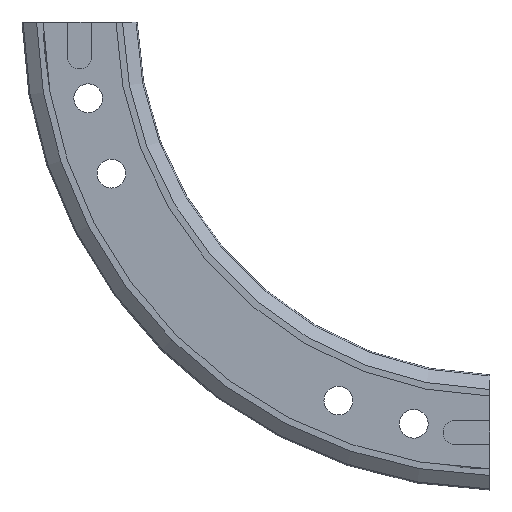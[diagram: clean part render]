
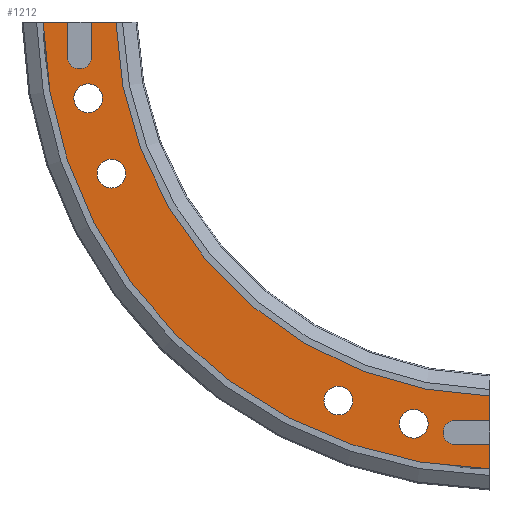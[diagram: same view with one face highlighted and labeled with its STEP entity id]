
A CAD part, front view. The second image highlights one B-rep face of the part: STEP entity #1212.
In plain terms, the highlighted planar face has unit normal (0, -1, 0).
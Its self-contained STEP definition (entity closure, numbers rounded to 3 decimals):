
#27=PLANE('',#1301);
#78=LINE('',#1788,#190);
#82=LINE('',#1796,#194);
#91=LINE('',#1857,#203);
#92=LINE('',#1858,#204);
#93=LINE('',#1860,#205);
#94=LINE('',#1864,#206);
#95=LINE('',#1866,#207);
#96=LINE('',#1869,#208);
#190=VECTOR('',#1423,1000.);
#194=VECTOR('',#1427,1000.);
#203=VECTOR('',#1448,1000.);
#204=VECTOR('',#1449,1000.);
#205=VECTOR('',#1450,1000.);
#206=VECTOR('',#1453,1000.);
#207=VECTOR('',#1454,1000.);
#208=VECTOR('',#1457,1000.);
#300=CIRCLE('',#1298,77.7);
#302=CIRCLE('',#1302,2.45);
#303=CIRCLE('',#1303,2.45);
#304=CIRCLE('',#1304,2.45);
#305=CIRCLE('',#1305,2.45);
#306=CIRCLE('',#1306,2.);
#307=CIRCLE('',#1307,2.);
#308=CIRCLE('',#1308,65.3);
#366=ORIENTED_EDGE('',*,*,#701,.F.);
#367=ORIENTED_EDGE('',*,*,#702,.F.);
#368=ORIENTED_EDGE('',*,*,#703,.F.);
#369=ORIENTED_EDGE('',*,*,#704,.F.);
#370=ORIENTED_EDGE('',*,*,#705,.T.);
#371=ORIENTED_EDGE('',*,*,#706,.T.);
#372=ORIENTED_EDGE('',*,*,#682,.T.);
#373=ORIENTED_EDGE('',*,*,#677,.T.);
#374=ORIENTED_EDGE('',*,*,#707,.T.);
#375=ORIENTED_EDGE('',*,*,#708,.T.);
#376=ORIENTED_EDGE('',*,*,#709,.T.);
#377=ORIENTED_EDGE('',*,*,#710,.T.);
#378=ORIENTED_EDGE('',*,*,#711,.T.);
#379=ORIENTED_EDGE('',*,*,#712,.F.);
#380=ORIENTED_EDGE('',*,*,#686,.T.);
#381=ORIENTED_EDGE('',*,*,#713,.T.);
#677=EDGE_CURVE('',#845,#846,#300,.T.);
#682=EDGE_CURVE('',#850,#845,#78,.T.);
#686=EDGE_CURVE('',#854,#853,#82,.T.);
#701=EDGE_CURVE('',#868,#868,#302,.T.);
#702=EDGE_CURVE('',#869,#869,#303,.T.);
#703=EDGE_CURVE('',#870,#870,#304,.T.);
#704=EDGE_CURVE('',#871,#871,#305,.T.);
#705=EDGE_CURVE('',#872,#873,#306,.T.);
#706=EDGE_CURVE('',#873,#850,#91,.T.);
#707=EDGE_CURVE('',#846,#874,#92,.T.);
#708=EDGE_CURVE('',#874,#875,#93,.T.);
#709=EDGE_CURVE('',#875,#876,#307,.T.);
#710=EDGE_CURVE('',#876,#877,#94,.T.);
#711=EDGE_CURVE('',#877,#878,#95,.T.);
#712=EDGE_CURVE('',#854,#878,#308,.T.);
#713=EDGE_CURVE('',#853,#872,#96,.T.);
#845=VERTEX_POINT('',#1768);
#846=VERTEX_POINT('',#1769);
#850=VERTEX_POINT('',#1789);
#853=VERTEX_POINT('',#1795);
#854=VERTEX_POINT('',#1797);
#868=VERTEX_POINT('',#1847);
#869=VERTEX_POINT('',#1849);
#870=VERTEX_POINT('',#1851);
#871=VERTEX_POINT('',#1853);
#872=VERTEX_POINT('',#1855);
#873=VERTEX_POINT('',#1856);
#874=VERTEX_POINT('',#1859);
#875=VERTEX_POINT('',#1861);
#876=VERTEX_POINT('',#1863);
#877=VERTEX_POINT('',#1865);
#878=VERTEX_POINT('',#1867);
#984=EDGE_LOOP('',(#366));
#985=EDGE_LOOP('',(#367));
#986=EDGE_LOOP('',(#368));
#987=EDGE_LOOP('',(#369));
#988=EDGE_LOOP('',(#370,#371,#372,#373,#374,#375,#376,#377,#378,#379,#380,
#381));
#1090=FACE_BOUND('',#984,.T.);
#1091=FACE_BOUND('',#985,.T.);
#1092=FACE_BOUND('',#986,.T.);
#1093=FACE_BOUND('',#987,.T.);
#1094=FACE_BOUND('',#988,.T.);
#1212=ADVANCED_FACE('',(#1090,#1091,#1092,#1093,#1094),#27,.T.);
#1298=AXIS2_PLACEMENT_3D('',#1767,#1415,#1416);
#1301=AXIS2_PLACEMENT_3D('',#1845,#1436,#1437);
#1302=AXIS2_PLACEMENT_3D('',#1846,#1438,#1439);
#1303=AXIS2_PLACEMENT_3D('',#1848,#1440,#1441);
#1304=AXIS2_PLACEMENT_3D('',#1850,#1442,#1443);
#1305=AXIS2_PLACEMENT_3D('',#1852,#1444,#1445);
#1306=AXIS2_PLACEMENT_3D('',#1854,#1446,#1447);
#1307=AXIS2_PLACEMENT_3D('',#1862,#1451,#1452);
#1308=AXIS2_PLACEMENT_3D('',#1868,#1455,#1456);
#1415=DIRECTION('',(0.,-1.,0.));
#1416=DIRECTION('',(0.,0.,-1.));
#1423=DIRECTION('',(-1.,0.,0.));
#1427=DIRECTION('',(-1.,0.,0.));
#1436=DIRECTION('',(0.,-1.,0.));
#1437=DIRECTION('',(0.,0.,-1.));
#1438=DIRECTION('',(0.,-1.,0.));
#1439=DIRECTION('',(0.,0.,-1.));
#1440=DIRECTION('',(0.,-1.,0.));
#1441=DIRECTION('',(0.,0.,-1.));
#1442=DIRECTION('',(0.,-1.,0.));
#1443=DIRECTION('',(0.,0.,-1.));
#1444=DIRECTION('',(0.,-1.,0.));
#1445=DIRECTION('',(0.,0.,-1.));
#1446=DIRECTION('',(0.,1.,0.));
#1447=DIRECTION('',(1.,0.,0.));
#1448=DIRECTION('',(0.,0.,1.));
#1449=DIRECTION('',(0.,0.,1.));
#1450=DIRECTION('',(-1.,0.,0.));
#1451=DIRECTION('',(0.,1.,0.));
#1452=DIRECTION('',(1.,0.,0.));
#1453=DIRECTION('',(1.,0.,0.));
#1454=DIRECTION('',(0.,0.,1.));
#1455=DIRECTION('',(0.,-1.,0.));
#1456=DIRECTION('',(0.,0.,-1.));
#1457=DIRECTION('',(0.,0.,-1.));
#1767=CARTESIAN_POINT('',(0.,0.,0.));
#1768=CARTESIAN_POINT('',(-77.686,0.,-1.5));
#1769=CARTESIAN_POINT('',(-1.5,0.,-77.686));
#1788=CARTESIAN_POINT('',(-1.5,0.,-1.5));
#1789=CARTESIAN_POINT('',(-73.5,0.,-1.5));
#1795=CARTESIAN_POINT('',(-69.5,0.,-1.5));
#1796=CARTESIAN_POINT('',(-1.5,0.,-1.5));
#1797=CARTESIAN_POINT('',(-65.283,0.,-1.5));
#1845=CARTESIAN_POINT('',(-65.3,0.,0.));
#1846=CARTESIAN_POINT('',(-70.014,0.,-14.499));
#1847=CARTESIAN_POINT('',(-70.014,0.,-16.949));
#1848=CARTESIAN_POINT('',(-14.499,0.,-70.014));
#1849=CARTESIAN_POINT('',(-14.499,0.,-72.464));
#1850=CARTESIAN_POINT('',(-66.057,0.,-27.362));
#1851=CARTESIAN_POINT('',(-66.057,0.,-29.812));
#1852=CARTESIAN_POINT('',(-27.362,0.,-66.057));
#1853=CARTESIAN_POINT('',(-27.362,0.,-68.507));
#1854=CARTESIAN_POINT('',(-71.5,0.,-7.5));
#1855=CARTESIAN_POINT('',(-69.5,0.,-7.5));
#1856=CARTESIAN_POINT('',(-73.5,0.,-7.5));
#1857=CARTESIAN_POINT('',(-73.5,0.,-7.5));
#1858=CARTESIAN_POINT('',(-1.5,0.,-81.685));
#1859=CARTESIAN_POINT('',(-1.5,0.,-73.5));
#1860=CARTESIAN_POINT('',(0.,0.,-73.5));
#1861=CARTESIAN_POINT('',(-7.5,0.,-73.5));
#1862=CARTESIAN_POINT('',(-7.5,0.,-71.5));
#1863=CARTESIAN_POINT('',(-7.5,0.,-69.5));
#1864=CARTESIAN_POINT('',(-7.5,0.,-69.5));
#1865=CARTESIAN_POINT('',(-1.5,0.,-69.5));
#1866=CARTESIAN_POINT('',(-1.5,0.,-81.685));
#1867=CARTESIAN_POINT('',(-1.5,0.,-65.283));
#1868=CARTESIAN_POINT('',(0.,0.,0.));
#1869=CARTESIAN_POINT('',(-69.5,0.,0.));
